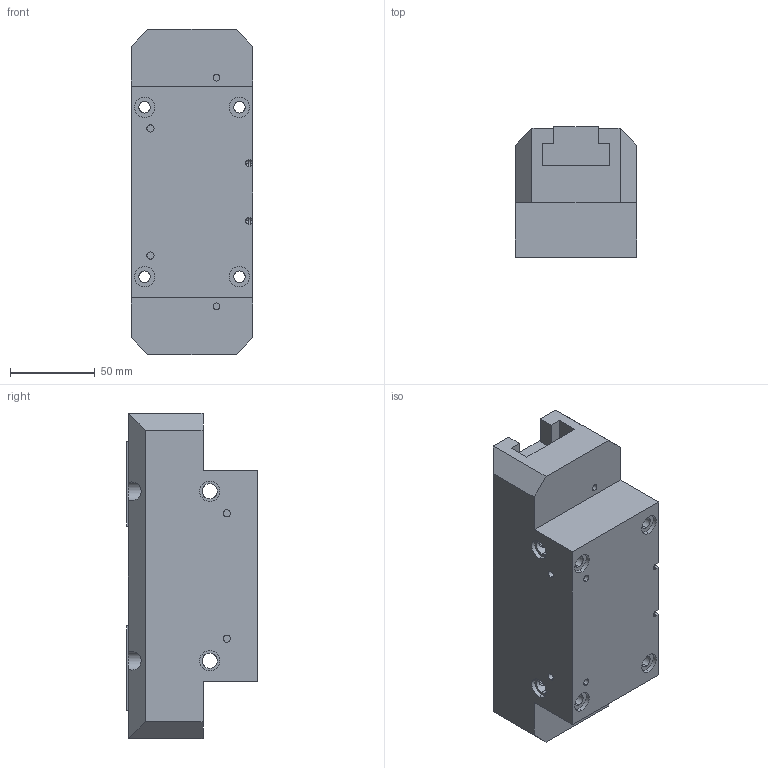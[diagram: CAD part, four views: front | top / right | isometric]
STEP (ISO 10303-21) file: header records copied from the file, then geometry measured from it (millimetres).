
FILE_DESCRIPTION (( 'STEP AP203' ), '1' );
FILE_NAME ('dh6632.STEP', '2011-08-03T09:15:31', ( 'Stefano' ), ( 'Gimatic' ), 'SwSTEP 2.0', 'SolidWorks 2010', '' );
FILE_SCHEMA (( 'CONFIG_CONTROL_DESIGN' ));
Length unit declared in the file: millimetre
Products named in the file (3): dh66_griffa; dh66_corpo; dh6632
Assembly tree (3 placements, depth 2):
  dh6632
    dh66_corpo
    dh66_griffa  x2
Bounding box: 72 x 77 x 192 mm (x, y, z)
Volume: 792581 mm3; surface area: 111679.1 mm2
Topology: 3 solids, 3 shells, 188 faces, 464 edges, 300 vertices
Faces by surface type: plane 94, cylinder 90, sphere 4
Entity records: 5735 total; most frequent: CARTESIAN_POINT 1388, DIRECTION 862, ORIENTED_EDGE 812, EDGE_CURVE 406, AXIS2_PLACEMENT_3D 314, VERTEX_POINT 264, LINE 234, VECTOR 234
